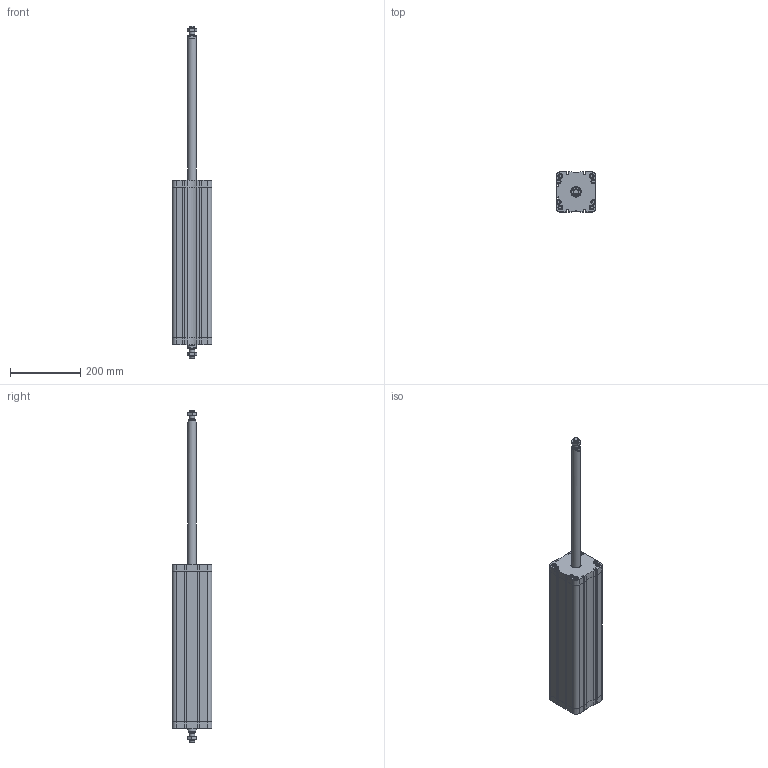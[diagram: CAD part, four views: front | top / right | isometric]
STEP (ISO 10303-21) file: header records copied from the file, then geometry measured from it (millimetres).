
FILE_DESCRIPTION(/* description */ ('Unknown'),/* implementation_level */ '2;1');
FILE_NAME(/* name */ 'ZBF 100_400',/* time_stamp */ '2024-11-20T09:29:34+01:00',/* author */ ('Unknown'),/* organization */ ('Unknown'),/* preprocessor_version */ 'ST-DEVELOPER v16.7',/* originating_system */ 'Solid Edge',/* authorisation */ 'Unknown');
FILE_SCHEMA (('AUTOMOTIVE_DESIGN {1 0 10303 214 3 1 1}'));
Length unit declared in the file: millimetre
Products named in the file (5): ZBF 100_400; Profilrohr; Kolbenstange; Mutter; Kit
Assembly tree (7 placements, depth 2):
  ZBF 100_400
    Profilrohr
    Kolbenstange  x2
    Mutter  x2
    Kit  x2
Bounding box: 113.5 x 113.5 x 943 mm (x, y, z)
Volume: 3050617.6 mm3; surface area: 564189.7 mm2
Topology: 7 solids, 7 shells, 835 faces, 2207 edges, 1452 vertices
Faces by surface type: plane 378, cylinder 233, bspline 114, cone 82, torus 28
Full cylindrical faces by diameter (mm): 8.376 x8, 8.566 x2, 13.1 x8, 13.5 x8, 14 x2, 14.376 x2, 16 x2, 25 x2, 25.6 x2, 26.9 x2, 28 x2, 29.8 x2, 30 x2, 100 x3
Entity records: 17553 total; most frequent: CARTESIAN_POINT 3669, ORIENTED_EDGE 2398, DIRECTION 2244, EDGE_CURVE 1199, VERTEX_POINT 819, AXIS2_PLACEMENT_3D 783, LINE 678, VECTOR 678
